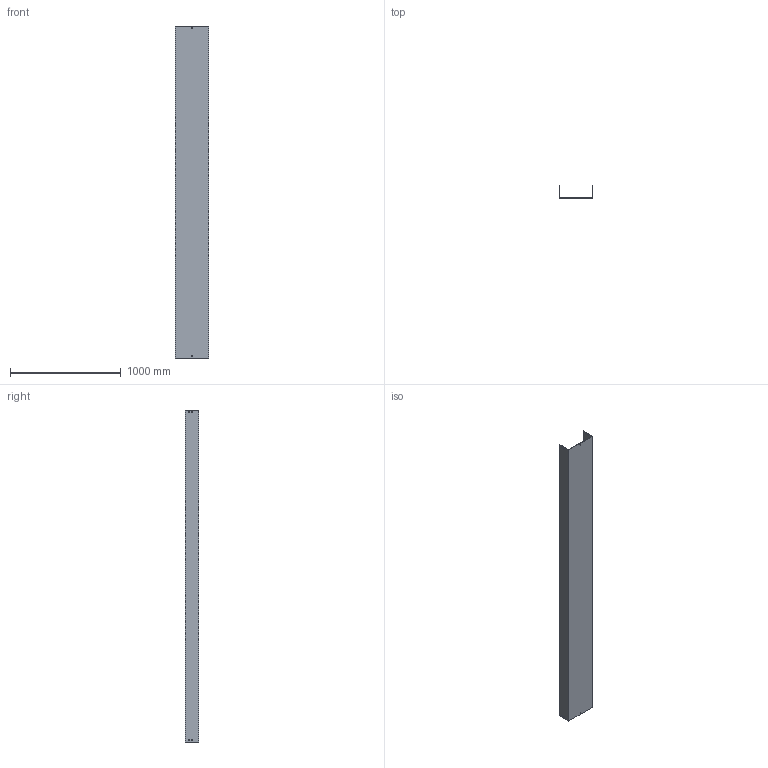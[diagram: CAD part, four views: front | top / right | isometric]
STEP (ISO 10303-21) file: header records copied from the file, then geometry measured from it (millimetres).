
FILE_DESCRIPTION (( 'STEP AP214' ), '1' );
FILE_NAME ('03B3J300.step', '2025-02-21T10:09:07', ( '' ), ( '' ), 'SwSTEP 2.0', 'SolidWorks 2023', '' );
FILE_SCHEMA (( 'AUTOMOTIVE_DESIGN' ));
Length unit declared in the file: millimetre
Products named in the file (1): 03B3J300
Bounding box: 304 x 117.5 x 3000 mm (x, y, z)
Volume: 5583630.5 mm3; surface area: 3216539 mm2
Topology: 1 solids, 1 shells, 50 faces, 144 edges, 96 vertices
Faces by surface type: plane 50
Entity records: 1671 total; most frequent: CARTESIAN_POINT 291, ORIENTED_EDGE 288, DIRECTION 246, VECTOR 144, LINE 144, EDGE_CURVE 144, VERTEX_POINT 96, EDGE_LOOP 70
